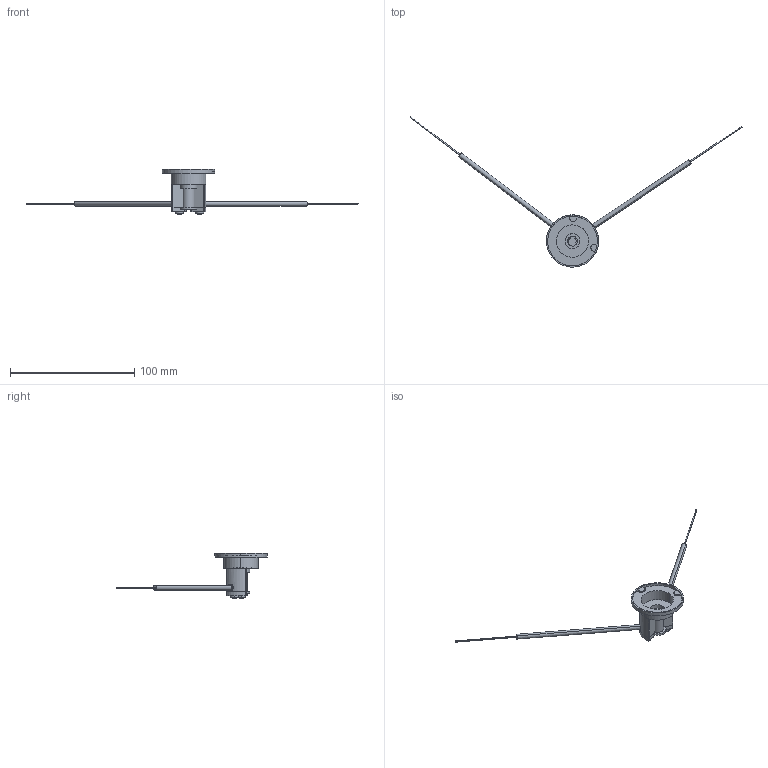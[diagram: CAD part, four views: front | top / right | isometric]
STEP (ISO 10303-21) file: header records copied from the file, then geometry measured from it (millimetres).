
FILE_DESCRIPTION (( 'STEP AP203' ), '1' );
FILE_NAME ('FU-10PRN.STEP', '2016-06-21T01:39:39', ( '' ), ( '' ), 'SwSTEP 2.0', 'SolidWorks 2014', '' );
FILE_SCHEMA (( 'CONFIG_CONTROL_DESIGN' ));
Length unit declared in the file: metre
Products named in the file (8): PRNA10S-#-#-#-FR (6)_1; PRNA10S-#-#-#-FU (8); PRNA10S-#-#-#-FR (5)_1; FU-10PRN; PRNA10S-#-#-#-FR (4)_1; PRNA10S-#-#-#-FR (1)_1; PRNA10S-#-#-#-FR (7)_1
Assembly tree (9 placements, depth 2):
  FU-10PRN
    PRNA10S-#-#-#-FR (1)_1
    PRNA10S-#-#-#-FR (4)_1
    PRNA10S-#-#-#-FR (5)_1
    PRNA10S-#-#-#-FR (6)_1  x2
    PRNA10S-#-#-#-FR (7)_1  x2
    PRNA10S-#-#-#-FU (8)
    (unnamed)
Bounding box: 266.94 x 120.92 x 36.41 mm (x, y, z)
Volume: 10951.3 mm3; surface area: 12453.1 mm2
Topology: 9 solids, 9 shells, 178 faces, 442 edges, 292 vertices
Faces by surface type: cylinder 88, plane 86, bspline 4
Entity records: 5722 total; most frequent: CARTESIAN_POINT 1030, DIRECTION 854, ORIENTED_EDGE 768, EDGE_CURVE 384, AXIS2_PLACEMENT_3D 330, VERTEX_POINT 254, VECTOR 194, LINE 194
